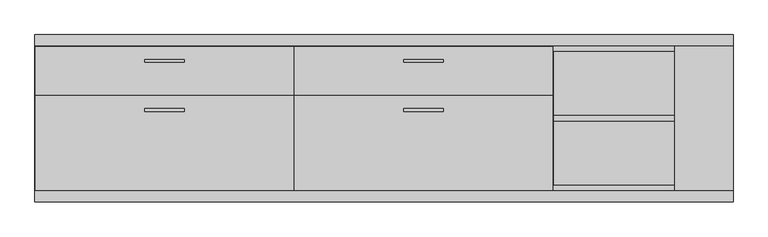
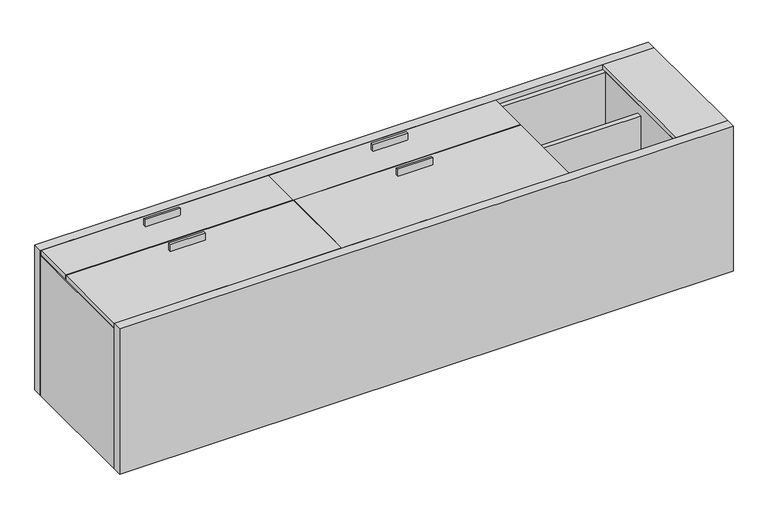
"""IFC4 building model written with IfcOpenShell, lengths in millimetres: proxy geometry, FOUNDATION^CREDENZA 96_RT SHELF FF LT-SOLID ASSEMBLY."""

from ifc_helpers import new_model, si_unit, frame, origin, origin_with_axes, place, context, project, spatial, polyline, outline, extrude, source, transform, mapped, element, save


def generic_models_7a6e1940(model_context):
    return source(origin(), model_context, "Body", "SweptSolid", [
        extrude(outline(polyline([(521.6921875, 488.15625), (383.5796875, 488.15625), (383.5796875, 497.68125), (521.6921875, 497.68125), (521.6921875, 488.15625)])), frame((0.0, 0.0, 609.6), z_axis=(0.0, 0.0, 1.0), x_axis=(1.0, 0.0, 0.0)), (0.0, 0.0, 1.0), 30.1625),
        extrude(outline(polyline([(521.6921875, 315.9125), (383.5796875, 315.9125), (383.5796875, 325.4375), (521.6921875, 325.4375), (521.6921875, 315.9125)])), frame((0.0, 0.0, 609.6), z_axis=(0.0, 0.0, 1.0), x_axis=(1.0, 0.0, 0.0)), (0.0, 0.0, 1.0), 30.1625),
        extrude(outline(polyline([(2234.40625, 282.575), (1810.54375, 282.575), (1810.54375, 301.625), (2234.40625, 301.625), (2234.40625, 282.575)])), frame((0.0, 0.0, 19.05), z_axis=(0.0, 0.0, 1.0), x_axis=(1.0, 0.0, 0.0)), (0.0, 0.0, 1.0), 533.4),
        extrude(outline(polyline([(2419.35, 38.1), (19.05, 38.1), (19.05, 546.1), (2419.35, 546.1), (2419.35, 38.1)])), origin_with_axes(), (0.0, 0.0, 1.0), 19.05),
        extrude(outline(polyline([(1808.1625, 371.475), (1808.1625, 40.48125), (906.065625, 40.48125), (906.065625, 371.475), (1808.1625, 371.475)])), frame((0.0, 0.0, 590.55), z_axis=(0.0, 0.0, 1.0), x_axis=(1.0, 0.0, 0.0)), (0.0, 0.0, 1.0), 19.05),
        extrude(outline(polyline([(0.0, 38.1), (2438.4, 38.1), (2438.4, 0.0), (0.0, 0.0), (0.0, 38.1)])), origin_with_axes(), (0.0, 0.0, 1.0), 609.6),
        extrude(outline(polyline([(2419.35, 546.1), (2438.4, 546.1), (2438.4, 38.1), (2419.35, 38.1), (2419.35, 546.1)])), origin_with_axes(), (0.0, 0.0, 1.0), 590.55),
        extrude(outline(polyline([(1808.1625, 373.85625), (906.065625, 373.85625), (906.065625, 543.71875), (1808.1625, 543.71875), (1808.1625, 373.85625)])), frame((0.0, 0.0, 590.55), z_axis=(0.0, 0.0, 1.0), x_axis=(1.0, 0.0, 0.0)), (0.0, 0.0, 1.0), 19.05),
        extrude(outline(polyline([(903.684375, 373.85625), (1.5875, 373.85625), (1.5875, 543.71875), (903.684375, 543.71875), (903.684375, 373.85625)])), frame((0.0, 0.0, 590.55), z_axis=(0.0, 0.0, 1.0), x_axis=(1.0, 0.0, 0.0)), (0.0, 0.0, 1.0), 19.05),
        extrude(outline(polyline([(2419.35, 546.1), (2419.35, 527.05), (19.05, 527.05), (19.05, 546.1), (2419.35, 546.1)])), frame((0.0, 0.0, 19.05), z_axis=(0.0, 0.0, 1.0), x_axis=(1.0, 0.0, 0.0)), (0.0, 0.0, 1.0), 568.325),
        extrude(outline(polyline([(1790.7, 527.05), (1809.75, 527.05), (1809.75, 57.15), (1790.7, 57.15), (1790.7, 527.05)])), frame((0.0, 0.0, 19.05), z_axis=(0.0, 0.0, 1.0), x_axis=(1.0, 0.0, 0.0)), (0.0, 0.0, 1.0), 568.325),
        extrude(outline(polyline([(2438.4, 546.1), (0.0, 546.1), (0.0, 584.2), (2438.4, 584.2), (2438.4, 546.1)])), origin_with_axes(), (0.0, 0.0, 1.0), 609.6),
        extrude(outline(polyline([(19.05, 38.1), (0.0, 38.1), (0.0, 546.1), (19.05, 546.1), (19.05, 38.1)])), origin_with_axes(), (0.0, 0.0, 1.0), 587.375),
        extrude(outline(polyline([(2438.4, 38.1), (2235.2, 38.1), (2235.2, 546.1), (2438.4, 546.1), (2438.4, 38.1)])), frame((0.0, 0.0, 590.55), z_axis=(0.0, 0.0, 1.0), x_axis=(1.0, 0.0, 0.0)), (0.0, 0.0, 1.0), 19.05),
        extrude(outline(polyline([(19.05, 38.1), (19.05, 57.15), (2419.35, 57.15), (2419.35, 38.1), (19.05, 38.1)])), frame((0.0, 0.0, 19.05), z_axis=(0.0, 0.0, 1.0), x_axis=(1.0, 0.0, 0.0)), (0.0, 0.0, 1.0), 571.5),
        extrude(outline(polyline([(1.5875, 40.48125), (1.5875, 371.475), (903.684375, 371.475), (903.684375, 40.48125), (1.5875, 40.48125)])), frame((0.0, 0.0, 590.55), z_axis=(0.0, 0.0, 1.0), x_axis=(1.0, 0.0, 0.0)), (0.0, 0.0, 1.0), 19.05),
        extrude(outline(polyline([(2235.2, 527.05), (2254.25, 527.05), (2254.25, 57.15), (2235.2, 57.15), (2235.2, 527.05)])), frame((0.0, 0.0, 19.05), z_axis=(0.0, 0.0, 1.0), x_axis=(1.0, 0.0, 0.0)), (0.0, 0.0, 1.0), 571.5),
        extrude(outline(polyline([(1426.1703125, 315.9125), (1288.0578125, 315.9125), (1288.0578125, 325.4375), (1426.1703125, 325.4375), (1426.1703125, 315.9125)])), frame((0.0, 0.0, 609.6), z_axis=(0.0, 0.0, 1.0), x_axis=(1.0, 0.0, 0.0)), (0.0, 0.0, 1.0), 30.1625),
        extrude(outline(polyline([(1426.1703125, 488.15625), (1288.0578125, 488.15625), (1288.0578125, 497.68125), (1426.1703125, 497.68125), (1426.1703125, 488.15625)])), frame((0.0, 0.0, 609.6), z_axis=(0.0, 0.0, 1.0), x_axis=(1.0, 0.0, 0.0)), (0.0, 0.0, 1.0), 30.1625),
    ])


if __name__ == "__main__":
    model = new_model("IFC4")
    model_context = context("Model", 3, world=origin())
    ifc_project = project(units=[si_unit("LENGTHUNIT", "METRE", prefix="MILLI")], contexts=[model_context])
    site = spatial("IfcSite", under=ifc_project)
    building = spatial("IfcBuilding", under=site)
    placement = place(None, origin())
    generic_models_shape = generic_models_7a6e1940(model_context)
    element("IfcBuildingElementProxy", 1, Name="FOUNDATION^CREDENZA 96_RT SHELF FF LT-SOLID ASSEMBLY", ObjectType="FOUNDATION^CREDENZA 96_RT SHELF FF LT-SOLID ASSEMBLY", at=placement, inside=building, context=model_context, shape_type="MappedRepresentation", body=[
        mapped(generic_models_shape, transform((0.0, 0.0, 0.0), x_axis=(1.0, 0.0, 0.0), y_axis=(0.0, 1.0, 0.0), z_axis=(0.0, 0.0, 1.0))),
    ])
    save(model, "model.ifc")
